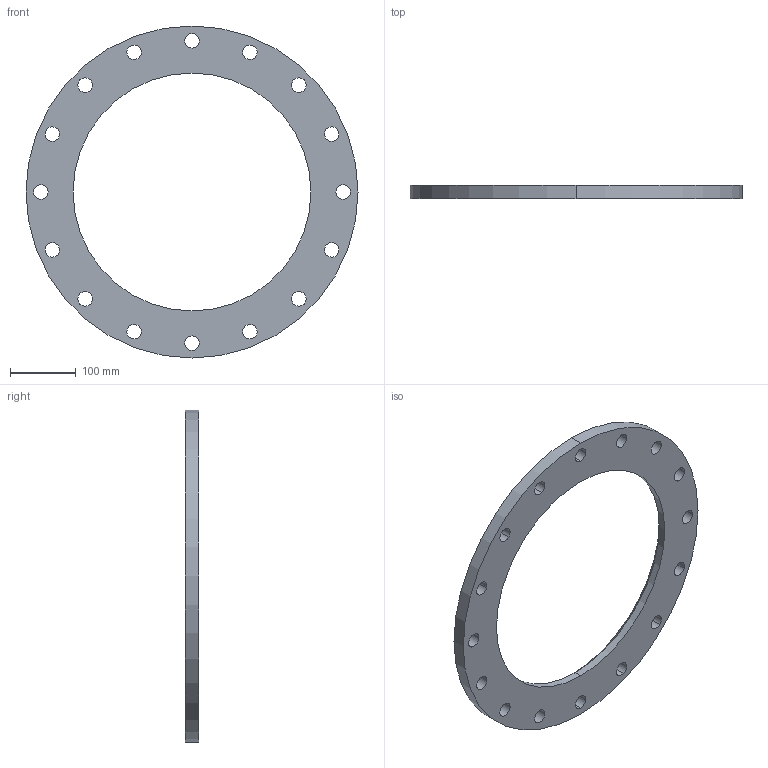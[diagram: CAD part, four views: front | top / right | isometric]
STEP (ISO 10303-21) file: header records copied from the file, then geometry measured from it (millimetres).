
FILE_DESCRIPTION (( 'STEP AP203' ), '1' );
FILE_NAME ('3D_R185_PN10_DN350_176641240_176642240.STEP', '2024-07-10T07:23:24', ( '' ), ( '' ), 'SwSTEP 2.0', 'SolidWorks 2024', '' );
FILE_SCHEMA (( 'CONFIG_CONTROL_DESIGN' ));
Length unit declared in the file: millimetre
Products named in the file (1): 3D_R185_PN10_DN350_176641240_176642240
Bounding box: 505 x 20 x 505 mm (x, y, z)
Volume: 1788918.2 mm3; surface area: 253930.4 mm2
Topology: 1 solids, 1 shells, 40 faces, 112 edges, 74 vertices
Faces by surface type: cylinder 36, cone 2, plane 2
Entity records: 1479 total; most frequent: DIRECTION 268, CARTESIAN_POINT 227, ORIENTED_EDGE 224, AXIS2_PLACEMENT_3D 115, EDGE_CURVE 112, EDGE_LOOP 74, CIRCLE 74, VERTEX_POINT 74
